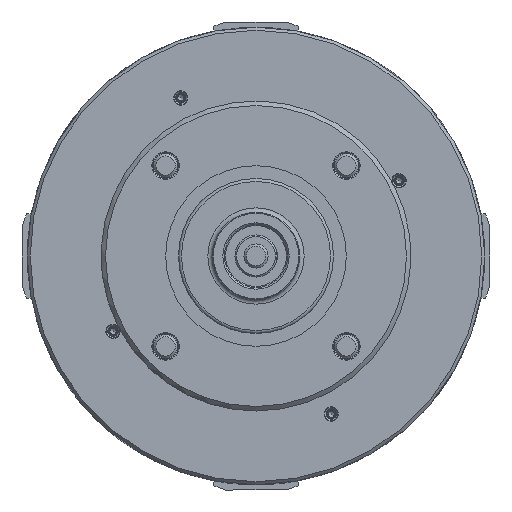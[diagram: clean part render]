
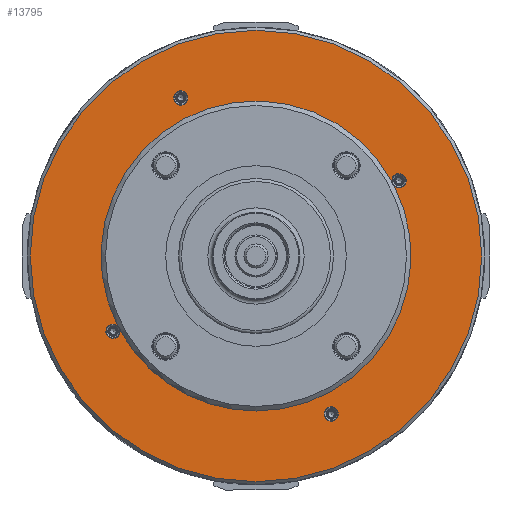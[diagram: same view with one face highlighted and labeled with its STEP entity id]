
A CAD part, left-side view. The second image highlights one B-rep face of the part: STEP entity #13795.
In plain terms, the highlighted planar face has unit normal (-1, 0, 0).
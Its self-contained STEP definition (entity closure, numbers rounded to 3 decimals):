
#334 = AXIS2_PLACEMENT_3D ( 'NONE', #35422, #9974, #78847 ) ;
#999 = CARTESIAN_POINT ( 'NONE',  ( -107., 91.997, -46.319 ) ) ;
#1982 = AXIS2_PLACEMENT_3D ( 'NONE', #15794, #94191, #111105 ) ;
#3583 = EDGE_CURVE ( 'NONE', #42341, #5811, #41574, .T. ) ;
#5160 = CARTESIAN_POINT ( 'NONE',  ( -107., 0., -150. ) ) ;
#5811 = VERTEX_POINT ( 'NONE', #35730 ) ;
#6583 = EDGE_CURVE ( 'NONE', #82471, #82471, #93008, .T. ) ;
#7649 = DIRECTION ( 'NONE',  ( 1., 0., 0. ) ) ;
#9974 = DIRECTION ( 'NONE',  ( 1., 0., 0. ) ) ;
#10991 = DIRECTION ( 'NONE',  ( 1., 0., 0. ) ) ;
#12220 = VERTEX_POINT ( 'NONE', #46703 ) ;
#13795 = ADVANCED_FACE ( 'NONE', ( #99072, #97955, #105850, #21786 ), #56197, .F. ) ;
#15794 = CARTESIAN_POINT ( 'NONE',  ( -107., 0., 0. ) ) ;
#17286 = EDGE_CURVE ( 'NONE', #33930, #33930, #103857, .T. ) ;
#21786 = FACE_BOUND ( 'NONE', #62277, .T. ) ;
#23498 = AXIS2_PLACEMENT_3D ( 'NONE', #49306, #56604, #73558 ) ;
#24637 = AXIS2_PLACEMENT_3D ( 'NONE', #50607, #7649, #108686 ) ;
#27785 = DIRECTION ( 'NONE',  ( 0., 0., -1. ) ) ;
#33648 = EDGE_CURVE ( 'NONE', #101081, #42341, #79681, .T. ) ;
#33930 = VERTEX_POINT ( 'NONE', #67771 ) ;
#34022 = CARTESIAN_POINT ( 'NONE',  ( -107., -95., 50. ) ) ;
#34759 = CARTESIAN_POINT ( 'NONE',  ( -107., 0., 0. ) ) ;
#35422 = CARTESIAN_POINT ( 'NONE',  ( -107., 95., -50. ) ) ;
#35730 = CARTESIAN_POINT ( 'NONE',  ( -107., 90.266, -49.609 ) ) ;
#38135 = ORIENTED_EDGE ( 'NONE', *, *, #6583, .F. ) ;
#39996 = CIRCLE ( 'NONE', #47155, 4.75 ) ;
#41574 = CIRCLE ( 'NONE', #23498, 103. ) ;
#42341 = VERTEX_POINT ( 'NONE', #105698 ) ;
#44329 = EDGE_CURVE ( 'NONE', #5811, #87950, #83251, .T. ) ;
#45005 = CARTESIAN_POINT ( 'NONE',  ( -107., -103., 0. ) ) ;
#45052 = AXIS2_PLACEMENT_3D ( 'NONE', #45005, #63545, #45552 ) ;
#45552 = DIRECTION ( 'NONE',  ( 0., 0., -1. ) ) ;
#46471 = EDGE_LOOP ( 'NONE', ( #57041 ) ) ;
#46703 = CARTESIAN_POINT ( 'NONE',  ( -107., -50., -109.75 ) ) ;
#47155 = AXIS2_PLACEMENT_3D ( 'NONE', #96969, #71040, #62563 ) ;
#49306 = CARTESIAN_POINT ( 'NONE',  ( -107., 0., 0. ) ) ;
#50607 = CARTESIAN_POINT ( 'NONE',  ( -107., 50., 105. ) ) ;
#52023 = CARTESIAN_POINT ( 'NONE',  ( -107., -90.266, 49.609 ) ) ;
#52445 = CIRCLE ( 'NONE', #1982, 103. ) ;
#56197 = PLANE ( 'NONE',  #45052 ) ;
#56604 = DIRECTION ( 'NONE',  ( 1., 0., 0. ) ) ;
#57041 = ORIENTED_EDGE ( 'NONE', *, *, #17286, .T. ) ;
#62277 = EDGE_LOOP ( 'NONE', ( #62935, #64979, #110278, #89736 ) ) ;
#62563 = DIRECTION ( 'NONE',  ( 0., 0., -1. ) ) ;
#62935 = ORIENTED_EDGE ( 'NONE', *, *, #3583, .T. ) ;
#63545 = DIRECTION ( 'NONE',  ( 1., 0., 0. ) ) ;
#64979 = ORIENTED_EDGE ( 'NONE', *, *, #44329, .T. ) ;
#67771 = CARTESIAN_POINT ( 'NONE',  ( -107., 50., 100.25 ) ) ;
#69251 = EDGE_LOOP ( 'NONE', ( #108295 ) ) ;
#70278 = DIRECTION ( 'NONE',  ( 0., 0., -1. ) ) ;
#71040 = DIRECTION ( 'NONE',  ( 1., 0., 0. ) ) ;
#73558 = DIRECTION ( 'NONE',  ( 0., 0., -1. ) ) ;
#76896 = DIRECTION ( 'NONE',  ( 1., 0., 0. ) ) ;
#78847 = DIRECTION ( 'NONE',  ( 0., 0., -1. ) ) ;
#79681 = CIRCLE ( 'NONE', #86840, 4.75 ) ;
#82471 = VERTEX_POINT ( 'NONE', #5160 ) ;
#83251 = CIRCLE ( 'NONE', #334, 4.75 ) ;
#86840 = AXIS2_PLACEMENT_3D ( 'NONE', #34022, #76896, #27785 ) ;
#87950 = VERTEX_POINT ( 'NONE', #999 ) ;
#89736 = ORIENTED_EDGE ( 'NONE', *, *, #33648, .T. ) ;
#93008 = CIRCLE ( 'NONE', #107417, 150. ) ;
#94191 = DIRECTION ( 'NONE',  ( 1., 0., 0. ) ) ;
#96969 = CARTESIAN_POINT ( 'NONE',  ( -107., -50., -105. ) ) ;
#97955 = FACE_BOUND ( 'NONE', #46471, .T. ) ;
#99072 = FACE_BOUND ( 'NONE', #69251, .T. ) ;
#101081 = VERTEX_POINT ( 'NONE', #52023 ) ;
#103857 = CIRCLE ( 'NONE', #24637, 4.75 ) ;
#104952 = EDGE_LOOP ( 'NONE', ( #38135 ) ) ;
#105698 = CARTESIAN_POINT ( 'NONE',  ( -107., -91.997, 46.319 ) ) ;
#105850 = FACE_OUTER_BOUND ( 'NONE', #104952, .T. ) ;
#105954 = EDGE_CURVE ( 'NONE', #87950, #101081, #52445, .T. ) ;
#106079 = EDGE_CURVE ( 'NONE', #12220, #12220, #39996, .T. ) ;
#107417 = AXIS2_PLACEMENT_3D ( 'NONE', #34759, #10991, #70278 ) ;
#108295 = ORIENTED_EDGE ( 'NONE', *, *, #106079, .T. ) ;
#108686 = DIRECTION ( 'NONE',  ( 0., 0., -1. ) ) ;
#110278 = ORIENTED_EDGE ( 'NONE', *, *, #105954, .T. ) ;
#111105 = DIRECTION ( 'NONE',  ( 0., 0., -1. ) ) ;
